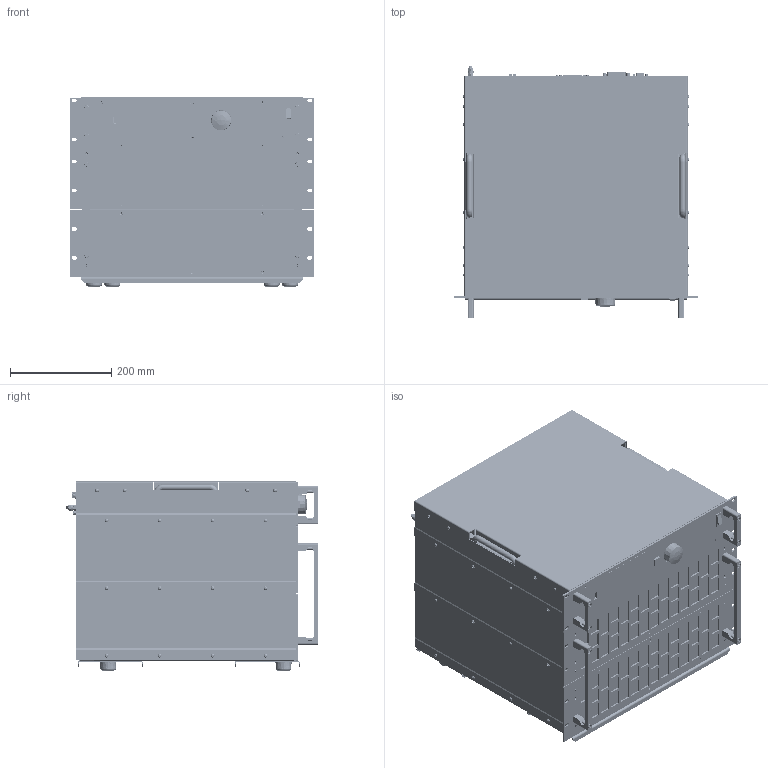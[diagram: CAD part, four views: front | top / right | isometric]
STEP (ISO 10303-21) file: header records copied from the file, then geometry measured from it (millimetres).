
FILE_DESCRIPTION(('STEP AP214'),'1');
FILE_NAME('ACL_M9_19Z_8HE_PH3_10.16_ST76_BRA_3D_02.step','2020-02-20T12:53:01',(' '),(' '),'Spatial InterOp 3D',' ',' ');
FILE_SCHEMA(('AUTOMOTIVE_DESIGN { 1 0 10303 214 1 1 1 1 }'));
Length unit declared in the file: millimetre
Products named in the file (19): *U519; *U520; *U521; *U525; *U526; *U527; *U607; *U608; *U609; *U610; *U611; *U612; *U613; *U614; 2078_ACL_IO Panel_02; 2085_ACL_Rückwand_Steuerteil_Single_Phase_mit_Druck_3D_02; *U645; AutoCreatedBlock_2064
Assembly tree (96 placements, depth 2):
  (unnamed)
    *U519  x8
    *U520  x6
    *U521  x8
    *U525  x8
    *U526  x6
    *U527  x8
    *U607  x2
    *U608
    *U609  x3
    *U610  x2
    *U611  x2
    *U612  x13
    *U613  x16
    *U614  x6
    2078_ACL_IO Panel_02
    2085_ACL_Rückwand_Steuerteil_Single_Phase_mit_Druck_3D_02
    *U645  x4
    AutoCreatedBlock_2064
Bounding box: 482.61 x 497.65 x 372.94 mm (x, y, z)
Volume: 2996601.1 mm3; surface area: 4310922.3 mm2
Topology: 247 solids, 333 shells, 18917 faces, 47476 edges, 29761 vertices
Faces by surface type: plane 9063, cone 6016, cylinder 3162, sphere 248, torus 211, bspline 190, extrusion 27
Entity records: 601382 total; most frequent: CARTESIAN_POINT 117461, DIRECTION 76001, ORIENTED_EDGE 74290, EDGE_CURVE 37315, VECTOR 26491, LINE 26464, AXIS2_PLACEMENT_3D 24755, VERTEX_POINT 23615
